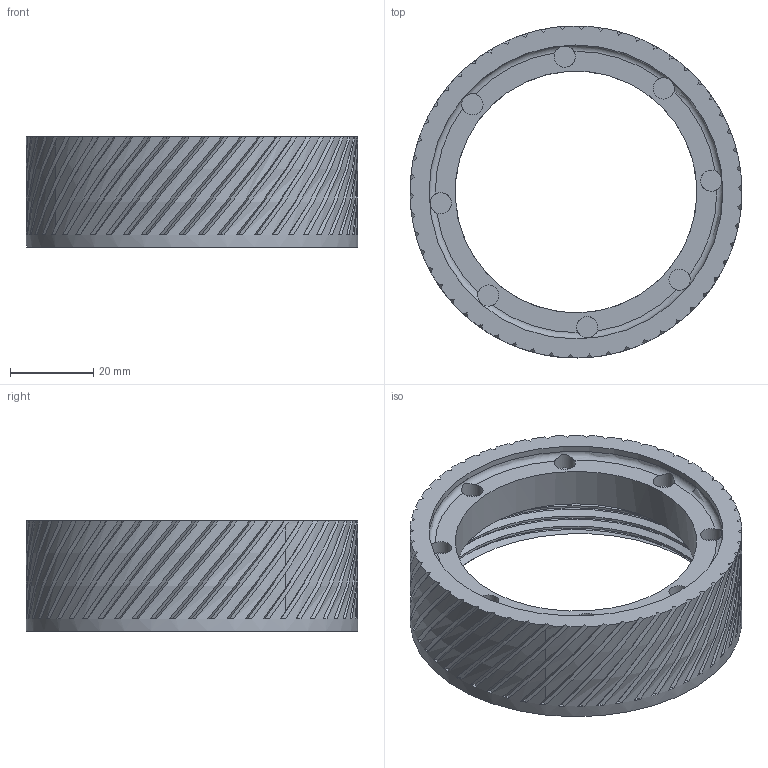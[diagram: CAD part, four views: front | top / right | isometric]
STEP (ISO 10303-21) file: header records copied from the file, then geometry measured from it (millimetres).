
FILE_DESCRIPTION(/* description */ ('STEP AP242','CAx-IF Rec.Pracs.---Representation and Presentation of Product Manufacturing Information (PMI)---4.0---2014-10-13','CAx-IF Rec.Pracs.---3D Tessellated Geometry---0.4---2014-09-14','2;1'),/* implementation_level */ '2;1');
FILE_NAME(/* name */ '6469230acac4670533c20092',/* time_stamp */ '2023-05-20T19:44:10Z',/* author */ (''),/* organization */ (''),/* preprocessor_version */ 'ST-DEVELOPER v19.4',/* originating_system */ ' ',/* authorisation */ ' ');
FILE_SCHEMA (('AP242_MANAGED_MODEL_BASED_3D_ENGINEERING_MIM_LF { 1 0 10303 442 1 1 4 }'));
Length unit declared in the file: metre
Products named in the file (1): Base 21mm Magnet NoLug
Bounding box: 79.6 x 79.6 x 26.4 mm (x, y, z)
Volume: 38897.8 mm3; surface area: 19064.8 mm2
Topology: 1 solids, 1 shells, 232 faces, 682 edges, 455 vertices
Faces by surface type: bspline 130, plane 82, cylinder 16, cone 3, torus 1
Full cylindrical faces by diameter (mm): 5.1 x8, 58 x1, 70.5 x1, 79.6 x1
Entity records: 14124 total; most frequent: CARTESIAN_POINT 9615, ORIENTED_EDGE 1290, EDGE_CURVE 645, DIRECTION 515, VERTEX_POINT 435, B_SPLINE_CURVE_WITH_KNOTS 307, EDGE_LOOP 246, FACE_BOUND 246
